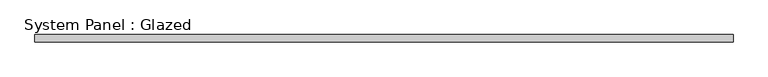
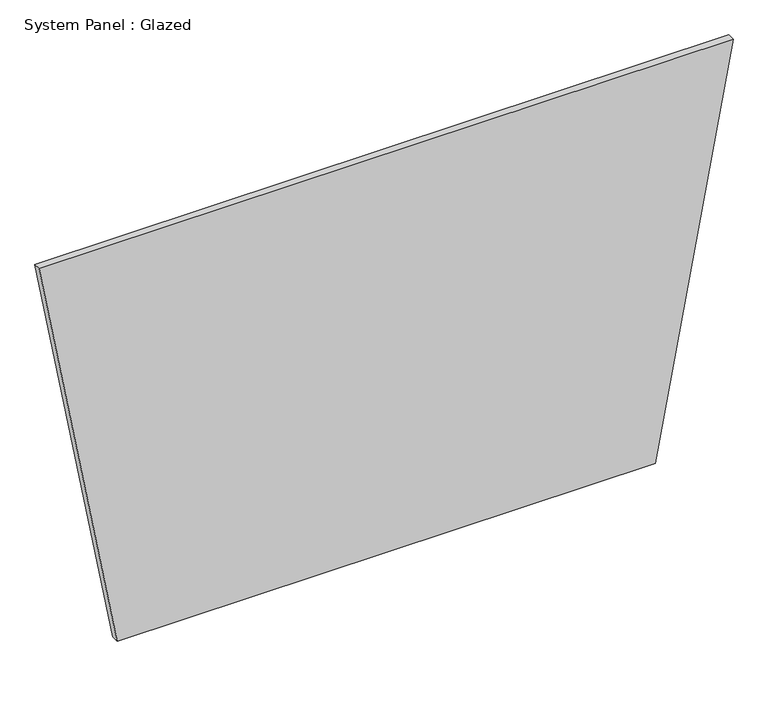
"""IFC4 building model written with IfcOpenShell, lengths in millimetres: plate geometry, System Panel : Glazed."""

from ifc_helpers import new_model, si_unit, frame, origin, place, context, project, spatial, polyline, outline, extrude, source, transform, mapped, element, save


def system_panel_glazed_748e87ae(model_context):
    return source(origin(), model_context, "Body", "SweptSolid", [
        extrude(outline(polyline([(0.0, -916.1258562), (0.0, 916.1258562), (1435.0528112, 1181.710332), (1435.0528112, -1181.710332), (0.0, -916.1258562)])), frame((0.0, 19.05, 0.0), z_axis=(0.0, 1.0, 0.0), x_axis=(0.0, 0.0, 1.0)), (0.0, 0.0, 1.0), 25.4),
    ])


if __name__ == "__main__":
    model = new_model("IFC4")
    model_context = context("Model", 3, world=origin())
    ifc_project = project(units=[si_unit("LENGTHUNIT", "METRE", prefix="MILLI")], contexts=[model_context])
    site = spatial("IfcSite", under=ifc_project)
    building = spatial("IfcBuilding", under=site)
    placement = place(None, origin())
    system_panel_glazed_shape = system_panel_glazed_748e87ae(model_context)
    element("IfcPlate", 1, ObjectType="System Panel : Glazed", at=placement, inside=building, context=model_context, shape_type="MappedRepresentation", body=[
        mapped(system_panel_glazed_shape, transform((0.0, 0.0, 0.0), x_axis=(1.0, 0.0, 0.0), y_axis=(0.0, 1.0, 0.0), z_axis=(0.0, 0.0, 1.0))),
    ])
    save(model, "model.ifc")
